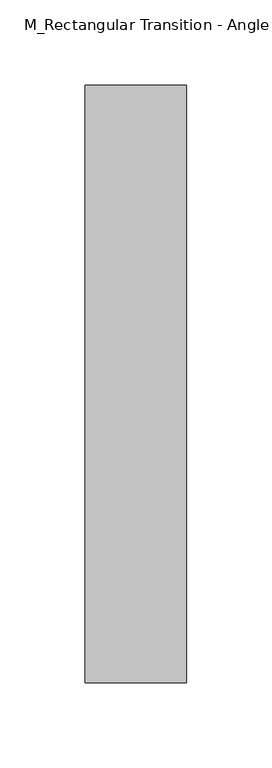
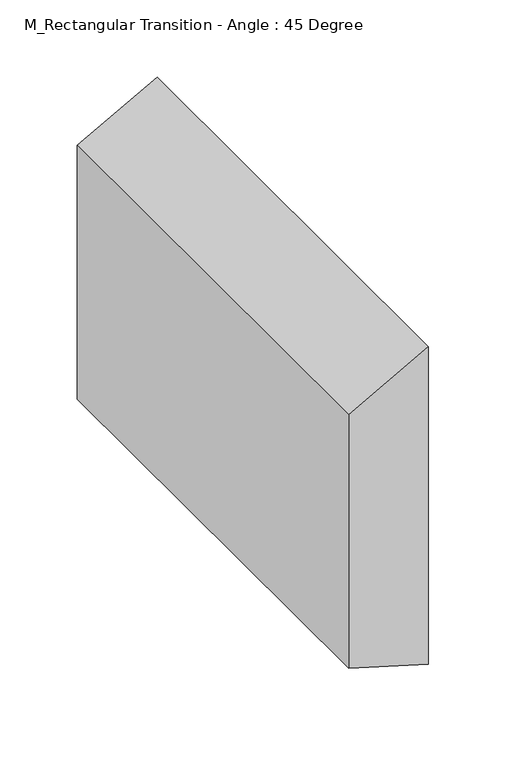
"""IFC4 building model written with IfcOpenShell, lengths in millimetres: duct fitting geometry, M_Rectangular Transition - Angle : 45 Degree."""

from ifc_helpers import new_model, si_unit, frame, origin, place, context, project, spatial, polyline, outline, extrude, source, transform, mapped, element, save


def m_rectangular_transition_angle_45_degree_a7042dae(model_context):
    return source(origin(), model_context, "Body", "SweptSolid", [
        extrude(outline(polyline([(100.0, 0.0), (-100.0, 0.0), (-117.3744989, 59.5232057), (132.6255011, 59.5232057), (100.0, 0.0)])), frame((0.0, -175.0, 0.0), z_axis=(0.0, 1.0, 0.0), x_axis=(0.0, 0.0, 1.0)), (0.0, 0.0, 1.0), 350.0),
    ])


if __name__ == "__main__":
    model = new_model("IFC4")
    model_context = context("Model", 3, world=origin())
    ifc_project = project(units=[si_unit("LENGTHUNIT", "METRE", prefix="MILLI")], contexts=[model_context])
    site = spatial("IfcSite", under=ifc_project)
    building = spatial("IfcBuilding", under=site)
    placement = place(None, origin())
    m_rectangular_transition_angle_45_degree_shape = m_rectangular_transition_angle_45_degree_a7042dae(model_context)
    element("IfcDuctFitting", 1, ObjectType="M_Rectangular Transition - Angle : 45 Degree", at=placement, inside=building, context=model_context, shape_type="MappedRepresentation", body=[
        mapped(m_rectangular_transition_angle_45_degree_shape, transform((0.0, 0.0, 0.0), x_axis=(1.0, 0.0, 0.0), y_axis=(0.0, 1.0, 0.0), z_axis=(0.0, 0.0, 1.0))),
    ])
    save(model, "model.ifc")
